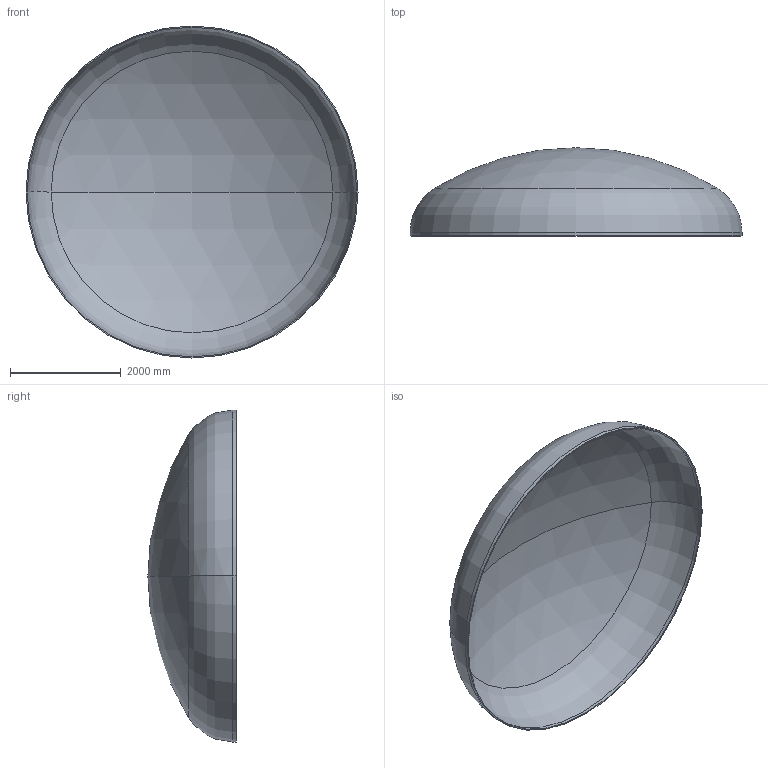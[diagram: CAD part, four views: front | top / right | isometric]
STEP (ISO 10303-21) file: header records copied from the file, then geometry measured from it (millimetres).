
FILE_DESCRIPTION (( 'STEP AP203' ), '1' );
FILE_NAME ('DIN 28013 Korbbogenform_-_Boden DIN 28013 - 6000 x 60 - I - s=20.step', '2016-07-04T10:36:03', ( '' ), ( '' ), 'SwSTEP 2.0', 'SolidWorks 2013', '' );
FILE_SCHEMA (( 'CONFIG_CONTROL_DESIGN' ));
Length unit declared in the file: millimetre
Products named in the file (1): DIN 28013 Korbbogenform_-_Boden DIN 28013 - 6000 x 60 - I - s=20
Bounding box: 6000 x 1594.79 x 6000 mm (x, y, z)
Volume: 802504745.4 mm3; surface area: 80627014.2 mm2
Topology: 1 solids, 1 shells, 13 faces, 24 edges, 14 vertices
Faces by surface type: torus 4, cylinder 4, sphere 4, plane 1
Entity records: 407 total; most frequent: DIRECTION 72, CARTESIAN_POINT 52, ORIENTED_EDGE 48, AXIS2_PLACEMENT_3D 34, EDGE_CURVE 24, CIRCLE 20, EDGE_LOOP 14, VERTEX_POINT 14
